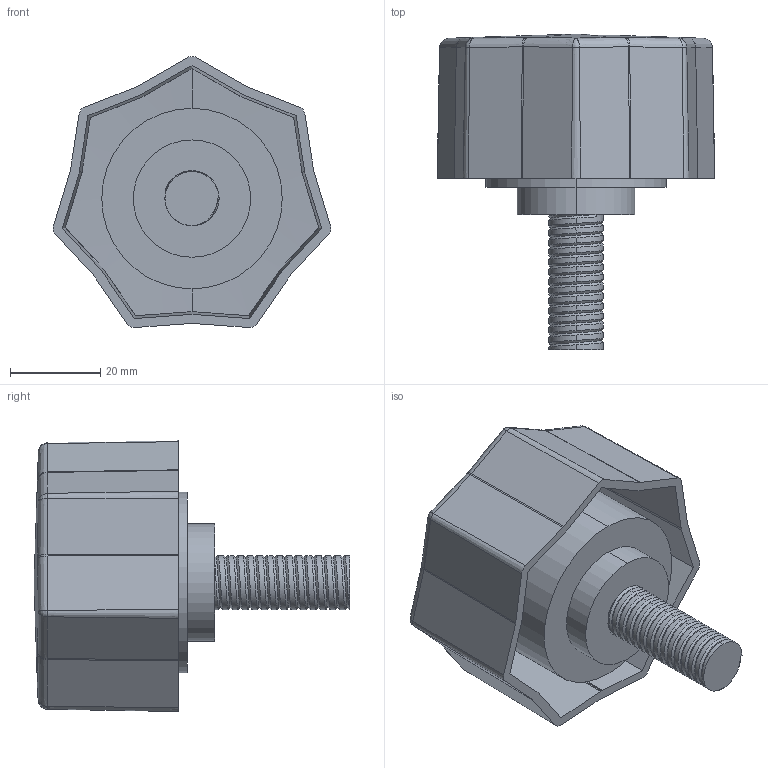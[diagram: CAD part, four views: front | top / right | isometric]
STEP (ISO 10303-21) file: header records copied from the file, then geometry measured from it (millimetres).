
FILE_DESCRIPTION (( 'STEP AP203' ), '1' );
FILE_NAME ('AP-1050-63-M12-30.STEP', '2015-11-23T12:05:48', ( '' ), ( '' ), 'SwSTEP 2.0', 'SolidWorks 2014', '' );
FILE_SCHEMA (( 'CONFIG_CONTROL_DESIGN' ));
Length unit declared in the file: millimetre
Products named in the file (1): AP-1050-63-M12-30
Bounding box: 61.52 x 70 x 60.07 mm (x, y, z)
Volume: 61848.5 mm3; surface area: 21782 mm2
Topology: 1 solids, 1 shells, 147 faces, 375 edges, 224 vertices
Faces by surface type: cylinder 51, bspline 51, plane 34, cone 11
Entity records: 8513 total; most frequent: CARTESIAN_POINT 5583, ORIENTED_EDGE 732, DIRECTION 416, EDGE_CURVE 366, VERTEX_POINT 224, EDGE_LOOP 150, ADVANCED_FACE 147, FACE_OUTER_BOUND 147
